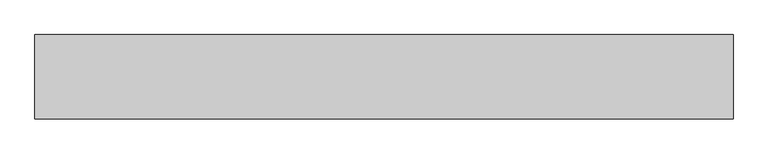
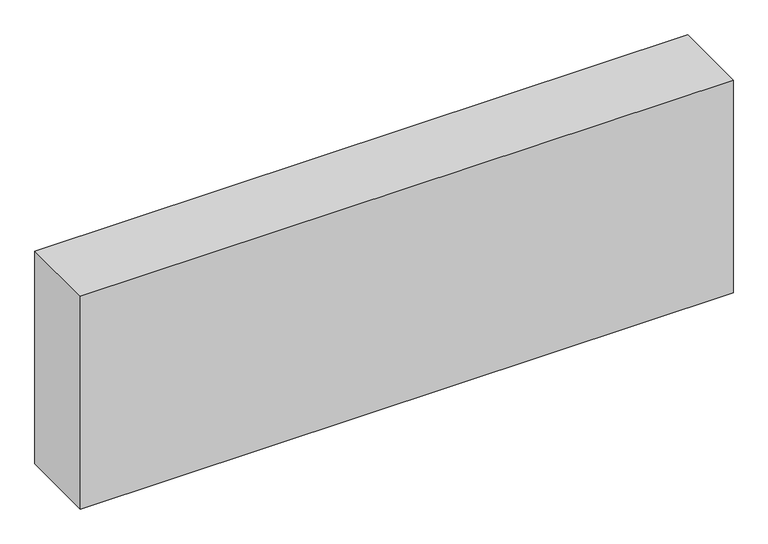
"""IFC4 building model written with IfcOpenShell, lengths in millimetres: proxy geometry."""

import ifcopenshell
import ifcopenshell.guid

model = None  # the IFC model being written
_history = None  # IfcOwnerHistory: only IFC2X3 demands one
_inside = {}  # id of a spatial element -> (the spatial element, [elements in it])
_under = {}  # id of a project, library or spatial element -> (it, [spatial elements below it])
_declared = {}  # id of a project -> (the project, [libraries it declares])
_typed = {}  # id of a type object -> (the type object, [elements of that type])
_made_of = {}  # id of a material, layer set ... -> (it, [elements and type objects made of it])


def new_model(schema):
    """Start an empty IFC model of exactly this schema.

    Asked for "IFC4X3", IfcOpenShell would pick the latest addendum, in which some entities
    have other attributes; the version numbers below select the first issue.
    IFC2X3 requires an IfcOwnerHistory on every rooted entity: one is made here for all.
    """
    global model, _history
    if schema == "IFC4X3":
        model = ifcopenshell.file(schema_version=(4, 3, 0, 0))
    else:
        model = ifcopenshell.file(schema=schema)
    _inside.clear()
    _under.clear()
    _declared.clear()
    _typed.clear()
    _made_of.clear()
    _history = None
    if model.schema == "IFC2X3":
        org = make("IfcOrganization", Name="unknown")
        user = make(
            "IfcPersonAndOrganization",
            ThePerson=make("IfcPerson", FamilyName="unknown"),
            TheOrganization=org,
        )
        app = make(
            "IfcApplication",
            ApplicationDeveloper=org,
            Version="unknown",
            ApplicationFullName="unknown",
            ApplicationIdentifier="unknown",
        )
        _history = make(
            "IfcOwnerHistory",
            OwningUser=user,
            OwningApplication=app,
            ChangeAction="ADDED",
            CreationDate=0,
        )
    return model


def make(cls, **values):
    """One entity of the class cls with the attributes given. An attribute that is None is left unset."""
    return model.create_entity(
        cls, **{name: value for name, value in values.items() if value is not None}
    )


def rooted(cls, **values):
    """An entity with a GlobalId (a new one), such as an element, a storey or a relation."""
    return make(cls, GlobalId=ifcopenshell.guid.new(), OwnerHistory=_history, **values)


def si_unit(unit_type, name, prefix=None):
    """IfcSIUnit, for example si_unit("LENGTHUNIT", "METRE", prefix="MILLI")."""
    return make("IfcSIUnit", UnitType=unit_type, Prefix=prefix, Name=name)


def assignment(units):
    """IfcUnitAssignment: the units of a project."""
    return None if units is None else make("IfcUnitAssignment", Units=units)


def point(xyz):
    """IfcCartesianPoint."""
    return None if xyz is None else make("IfcCartesianPoint", Coordinates=xyz)


def direction(xyz):
    """IfcDirection."""
    return None if xyz is None else make("IfcDirection", DirectionRatios=xyz)


def frame(location, z_axis=None, x_axis=None):
    """IfcAxis2Placement3D, a coordinate frame: its origin and axes. An axis left out is left unset."""
    return make(
        "IfcAxis2Placement3D",
        Location=point(location),
        Axis=direction(z_axis),
        RefDirection=direction(x_axis),
    )


def origin():
    """The frame at (0, 0, 0) with its axes left unset."""
    return frame((0.0, 0.0, 0.0))


def place(relative_to, where):
    """IfcLocalPlacement: puts the frame where relative to a parent placement (None: the world)."""
    return make(
        "IfcLocalPlacement", PlacementRelTo=relative_to, RelativePlacement=where
    )


def context(
    kind, dimensions, precision=None, world=None, true_north=None, identifier=None
):
    """IfcGeometricRepresentationContext, for example the 3D "Model" context."""
    return make(
        "IfcGeometricRepresentationContext",
        ContextIdentifier=identifier,
        ContextType=kind,
        CoordinateSpaceDimension=dimensions,
        Precision=precision,
        WorldCoordinateSystem=world,
        TrueNorth=true_north,
    )


def project(units=None, contexts=None):
    """IfcProject with its units and contexts."""
    return rooted(
        "IfcProject",
        Name="project",
        RepresentationContexts=contexts,
        UnitsInContext=assignment(units),
    )


def spatial(cls, under=None, at=None, **own):
    """A site, building, storey or space (cls), placed at a placement, below another one or the project."""
    s = rooted(cls, ObjectPlacement=at, **own)
    if under is not None:
        _under.setdefault(under.id(), (under, []))[1].append(s)
    return s


def polyline(points):
    """IfcPolyline through the points."""
    return make("IfcPolyline", Points=[point(p) for p in points])


def outline(outer, holes=None, kind="AREA"):
    """IfcArbitraryClosedProfileDef: a profile drawn as a closed curve; with holes, ...WithVoids."""
    if holes is None:
        return make("IfcArbitraryClosedProfileDef", ProfileType=kind, OuterCurve=outer)
    return make(
        "IfcArbitraryProfileDefWithVoids",
        ProfileType=kind,
        OuterCurve=outer,
        InnerCurves=holes,
    )


def extrude(swept, where, along, depth):
    """IfcExtrudedAreaSolid: the profile swept, set in the frame where, extruded along a direction by depth."""
    return make(
        "IfcExtrudedAreaSolid",
        SweptArea=swept,
        Position=where,
        ExtrudedDirection=direction(along),
        Depth=depth,
    )


def shape(context_of_items, identifier, shape_type, items):
    """IfcShapeRepresentation: the items that make up one representation, for example the "Body"."""
    return make(
        "IfcShapeRepresentation",
        ContextOfItems=context_of_items,
        RepresentationIdentifier=identifier,
        RepresentationType=shape_type,
        Items=items,
    )


def source(mapping_origin, context_of_items, identifier, shape_type, items):
    """IfcRepresentationMap: a shape defined once, which mapped items show again and again."""
    return make(
        "IfcRepresentationMap",
        MappingOrigin=mapping_origin,
        MappedRepresentation=shape(context_of_items, identifier, shape_type, items),
    )


def transform(
    local_origin,
    x_axis=None,
    y_axis=None,
    z_axis=None,
    scale=None,
    scale2=None,
    scale3=None,
    uniform=True,
):
    """IfcCartesianTransformationOperator3D, or its non-uniform kind. x_axis, y_axis, z_axis: its Axis1, 2, 3."""
    if uniform:
        return make(
            "IfcCartesianTransformationOperator3D",
            Axis1=direction(x_axis),
            Axis2=direction(y_axis),
            LocalOrigin=point(local_origin),
            Scale=scale,
            Axis3=direction(z_axis),
        )
    return make(
        "IfcCartesianTransformationOperator3DnonUniform",
        Axis1=direction(x_axis),
        Axis2=direction(y_axis),
        LocalOrigin=point(local_origin),
        Scale=scale,
        Axis3=direction(z_axis),
        Scale2=scale2,
        Scale3=scale3,
    )


def mapped(mapping_source, mapping_target):
    """IfcMappedItem: shows the shape of a source again, moved by a transform."""
    return make(
        "IfcMappedItem", MappingSource=mapping_source, MappingTarget=mapping_target
    )


def made_of(thing, what):
    """Note that an element or type object is made of a material, layer set ...; save() writes the relation."""
    if what is not None:
        _made_of.setdefault(what.id(), (what, []))[1].append(thing)
    return thing


def element(
    cls,
    number,
    at=None,
    inside=None,
    cuts=None,
    type_object=None,
    material=None,
    context=None,
    identifier="Body",
    shape_type=None,
    held_by="IfcProductDefinitionShape",
    body=None,
    shapes=None,
    **own,
):
    """One element of the class cls, such as IfcWall. Its Tag is "e" and its number.

    at: its placement. inside: the storey or other place that contains it. cuts: it is an
    opening in that element (IfcRelVoidsElement). A single representation is given by context,
    identifier, shape_type and body (its items); several are given by shapes. held_by: the class
    of the entity that holds the representations. save() writes the other relations.
    """
    e = rooted(cls, Tag="e%d" % number, ObjectPlacement=at, **own)
    if body is not None:
        shapes = [shape(context, identifier, shape_type, body)]
    if shapes is not None:
        e.Representation = make(held_by, Representations=shapes)
    if inside is not None:
        _inside.setdefault(inside.id(), (inside, []))[1].append(e)
    if cuts is not None:
        rooted(
            "IfcRelVoidsElement", RelatingBuildingElement=cuts, RelatedOpeningElement=e
        )
    if type_object is not None:
        _typed.setdefault(type_object.id(), (type_object, []))[1].append(e)
    return made_of(e, material)


def aggregate(whole, parts):
    """IfcRelAggregates: a whole, such as a stair, and the parts it consists of."""
    return rooted("IfcRelAggregates", RelatingObject=whole, RelatedObjects=parts)


def save(model, path):
    """Write the relations noted so far, then the file.

    IfcRelAggregates (storeys below a building ...), IfcRelContainedInSpatialStructure (elements
    in a storey), IfcRelDefinesByType, IfcRelAssociatesMaterial and IfcRelDeclares: one each for
    every whole, place, type object, material and project.
    """
    for whole, parts in _under.values():
        aggregate(whole, parts)
    for where, things in _inside.values():
        rooted(
            "IfcRelContainedInSpatialStructure",
            RelatedElements=things,
            RelatingStructure=where,
        )
    for kind, things in _typed.values():
        rooted("IfcRelDefinesByType", RelatedObjects=things, RelatingType=kind)
    for what, things in _made_of.values():
        rooted("IfcRelAssociatesMaterial", RelatedObjects=things, RelatingMaterial=what)
    for by, libraries in _declared.values():
        rooted("IfcRelDeclares", RelatingContext=by, RelatedDefinitions=libraries)
    model.write(path)


def structural_framing_83119bec(model_context):
    return source(origin(), model_context, "Body", "SweptSolid", [
        extrude(outline(polyline([(-580.25, -70.0), (-580.25, 70.0), (580.25, 70.0), (580.25, -70.0), (-580.25, -70.0)])), frame((0.0, 0.0, -400.0), z_axis=(0.0, 0.0, 1.0), x_axis=(1.0, 0.0, 0.0)), (0.0, 0.0, 1.0), 400.0),
    ])


if __name__ == "__main__":
    model = new_model("IFC4")
    model_context = context("Model", 3, world=origin())
    ifc_project = project(units=[si_unit("LENGTHUNIT", "METRE", prefix="MILLI")], contexts=[model_context])
    site = spatial("IfcSite", under=ifc_project)
    building = spatial("IfcBuilding", under=site)
    placement = place(None, origin())
    structural_framing_shape = structural_framing_83119bec(model_context)
    element("IfcBuildingElementProxy", 1, Name="Structural Framing", at=placement, inside=building, context=model_context, shape_type="MappedRepresentation", body=[
        mapped(structural_framing_shape, transform((0.0, 0.0, 0.0), x_axis=(1.0, 0.0, 0.0), y_axis=(0.0, 1.0, 0.0), z_axis=(0.0, 0.0, 1.0))),
    ])
    save(model, "model.ifc")
